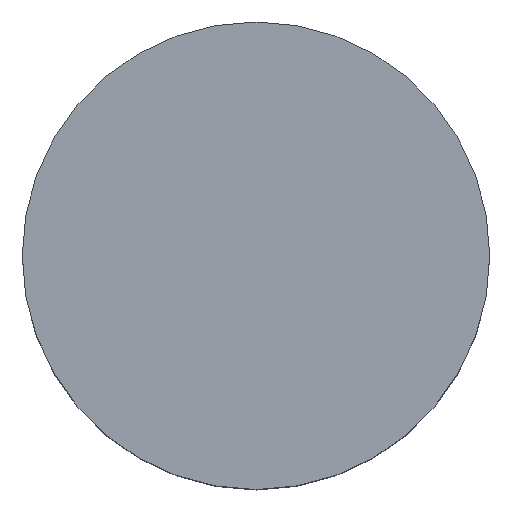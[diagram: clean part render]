
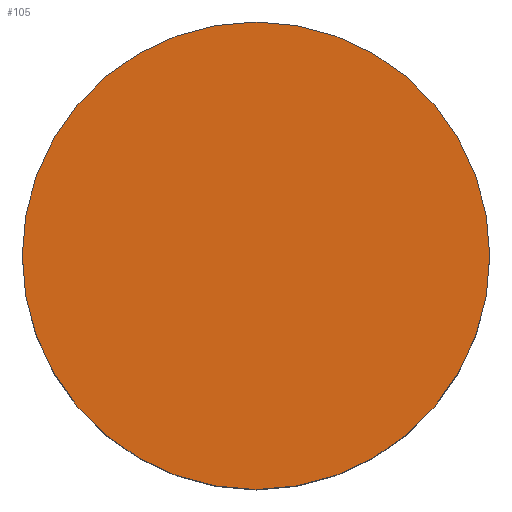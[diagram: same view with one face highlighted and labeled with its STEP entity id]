
A CAD part, top view. The second image highlights one B-rep face of the part: STEP entity #105.
In plain terms, the highlighted planar face has unit normal (0, 0, 1).
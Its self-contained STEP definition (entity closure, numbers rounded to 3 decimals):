
#21 = EDGE_CURVE('',#22,#22,#24,.T.);
#22 = VERTEX_POINT('',#23);
#23 = CARTESIAN_POINT('',(16.974,9.8,12.));
#24 = SURFACE_CURVE('',#25,(#30,#42),.PCURVE_S1.);
#25 = CIRCLE('',#26,1.8);
#26 = AXIS2_PLACEMENT_3D('',#27,#28,#29);
#27 = CARTESIAN_POINT('',(15.415,8.9,12.));
#28 = DIRECTION('',(0.,-0.,1.));
#29 = DIRECTION('',(0.866,0.5,0.));
#30 = PCURVE('',#31,#36);
#31 = CYLINDRICAL_SURFACE('',#32,1.8);
#32 = AXIS2_PLACEMENT_3D('',#33,#34,#35);
#33 = CARTESIAN_POINT('',(15.415,8.9,10.));
#34 = DIRECTION('',(0.,0.,1.));
#35 = DIRECTION('',(0.866,0.5,0.));
#36 = DEFINITIONAL_REPRESENTATION('',(#37),#41);
#37 = LINE('',#38,#39);
#38 = CARTESIAN_POINT('',(0.,2.));
#39 = VECTOR('',#40,1.);
#40 = DIRECTION('',(1.,0.));
#41 = ( GEOMETRIC_REPRESENTATION_CONTEXT(2) 
PARAMETRIC_REPRESENTATION_CONTEXT() REPRESENTATION_CONTEXT('2D SPACE',''
  ) );
#42 = PCURVE('',#43,#48);
#43 = PLANE('',#44);
#44 = AXIS2_PLACEMENT_3D('',#45,#46,#47);
#45 = CARTESIAN_POINT('',(15.415,8.9,12.));
#46 = DIRECTION('',(0.,0.,1.));
#47 = DIRECTION('',(0.866,0.5,0.));
#48 = DEFINITIONAL_REPRESENTATION('',(#49),#53);
#49 = CIRCLE('',#50,1.8);
#50 = AXIS2_PLACEMENT_2D('',#51,#52);
#51 = CARTESIAN_POINT('',(0.,0.));
#52 = DIRECTION('',(1.,0.));
#53 = ( GEOMETRIC_REPRESENTATION_CONTEXT(2) 
PARAMETRIC_REPRESENTATION_CONTEXT() REPRESENTATION_CONTEXT('2D SPACE',''
  ) );
#105 = ADVANCED_FACE('',(#106),#43,.T.);
#106 = FACE_BOUND('',#107,.T.);
#107 = EDGE_LOOP('',(#108));
#108 = ORIENTED_EDGE('',*,*,#21,.T.);
